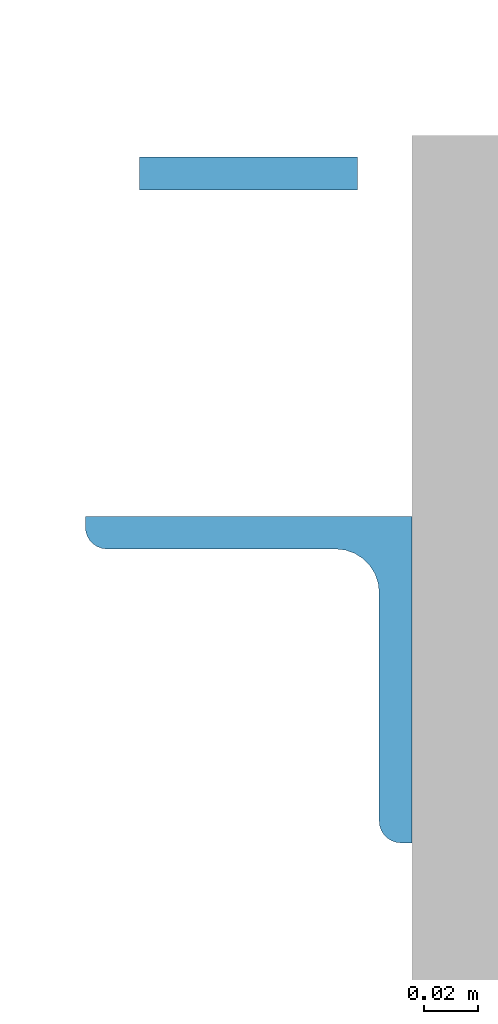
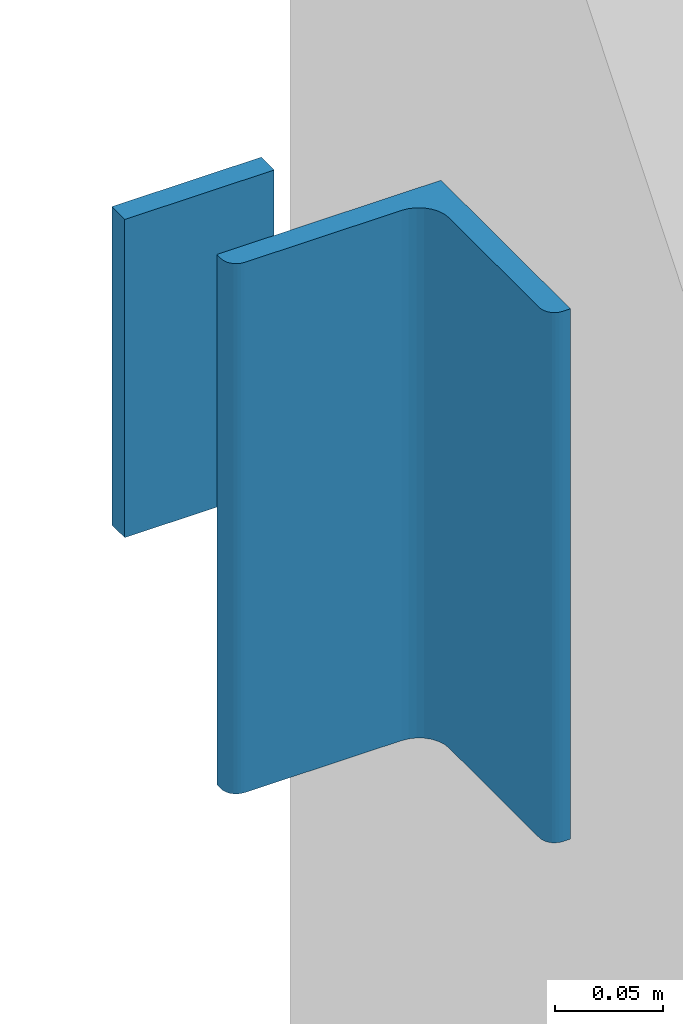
# One storey, part 12 of 22: 2 columns.
"""IFC2X3 building model written with IfcOpenShell, lengths in millimetres."""

from ifc_helpers import new_model, entity, si_unit, converted_unit, derived_unit, direction, frame, frame_2d, origin, place, context, subcontext, project, spatial, polyline, circle_curve, parameter, trimmed, segment, composite_curve, rectangle, outline, extrude, source, transform, mapped, material, type_object, type_shapes, element, save


model = new_model("IFC2X3")

# Units and contexts
model_context = context("Model", 3, precision=0.01, world=origin(), true_north=direction((6.12303176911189e-17, 1.0)))
body_context = subcontext(model_context, "Body", "Model", "MODEL_VIEW")
ifc_project = project(units=[si_unit("LENGTHUNIT", "METRE", prefix="MILLI"), si_unit("AREAUNIT", "SQUARE_METRE"), si_unit("VOLUMEUNIT", "CUBIC_METRE"), converted_unit("PLANEANGLEUNIT", "DEGREE", entity("IfcRatioMeasure", 0.0174532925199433), si_unit("PLANEANGLEUNIT", "RADIAN"), dimensions=[0, 0, 0, 0, 0, 0, 0]), si_unit("MASSUNIT", "GRAM", prefix="KILO"), derived_unit("MASSDENSITYUNIT", [(si_unit("MASSUNIT", "GRAM", prefix="KILO"), 1), (si_unit("LENGTHUNIT", "METRE"), -3)]), si_unit("TIMEUNIT", "SECOND"), si_unit("FREQUENCYUNIT", "HERTZ"), si_unit("THERMODYNAMICTEMPERATUREUNIT", "DEGREE_CELSIUS"), derived_unit("THERMALTRANSMITTANCEUNIT", [(si_unit("MASSUNIT", "GRAM", prefix="KILO"), 1), (si_unit("THERMODYNAMICTEMPERATUREUNIT", "KELVIN"), -1), (si_unit("TIMEUNIT", "SECOND"), -3)]), derived_unit("VOLUMETRICFLOWRATEUNIT", [(si_unit("LENGTHUNIT", "METRE"), 3), (si_unit("TIMEUNIT", "SECOND"), -1)]), si_unit("ELECTRICCURRENTUNIT", "AMPERE"), si_unit("ELECTRICVOLTAGEUNIT", "VOLT"), si_unit("POWERUNIT", "WATT"), si_unit("FORCEUNIT", "NEWTON", prefix="KILO"), si_unit("ILLUMINANCEUNIT", "LUX"), si_unit("LUMINOUSFLUXUNIT", "LUMEN"), si_unit("LUMINOUSINTENSITYUNIT", "CANDELA"), derived_unit("USERDEFINED", [(si_unit("MASSUNIT", "GRAM", prefix="KILO"), -1), (si_unit("LENGTHUNIT", "METRE"), -2), (si_unit("TIMEUNIT", "SECOND"), 3), (si_unit("LUMINOUSFLUXUNIT", "LUMEN"), 1)]), derived_unit("LINEARVELOCITYUNIT", [(si_unit("LENGTHUNIT", "METRE"), 1), (si_unit("TIMEUNIT", "SECOND"), -1)]), si_unit("PRESSUREUNIT", "PASCAL"), derived_unit("USERDEFINED", [(si_unit("LENGTHUNIT", "METRE"), -2), (si_unit("MASSUNIT", "GRAM", prefix="KILO"), 1), (si_unit("TIMEUNIT", "SECOND"), -2)])], contexts=[model_context])

# Site, building, storey
site_placement = place(None, origin())
site = spatial("IfcSite", under=ifc_project, at=site_placement, Name="Default", CompositionType="ELEMENT")
building_placement = place(site_placement, origin())
building = spatial("IfcBuilding", under=site, at=building_placement, Name="niet gebruiken", CompositionType="ELEMENT")
storey_placement = place(building_placement, frame((0.0, 0.0, 15000.0)))
storey = spatial("IfcBuildingStorey", under=building, at=storey_placement, Name="04 vierde verdieping", CompositionType="ELEMENT", Elevation=15000.0)

# Columns
ifc_material = material(Name="NLRS_h2_staal")
column_type_1 = type_object("IfcColumnType", Name="kolomgelijzijdig hoekprofiel LEQU_120x120x12_!", PredefinedType="COLUMN", material=ifc_material)
shared_shape_1 = source(origin(), body_context, "Body", "SweptSolid", [
    extrude(outline(composite_curve([segment(polyline([(-45.3333333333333, -45.3333333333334), (74.6666666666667, -45.3333333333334)]), True, "CONTINUOUS"), segment(polyline([(74.6666666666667, -45.3333333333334), (74.6666666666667, -41.3333333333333)]), True, "CONTINUOUS"), segment(trimmed(circle_curve(frame_2d((66.6666666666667, -41.3333333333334), x_axis=(1.0, 0.0)), 7.99999999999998), [parameter(0.0)], [parameter(90.0000000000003)], True, "PARAMETER"), True, "CONTINUOUS"), segment(polyline([(66.6666666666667, -33.3333333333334), (-17.3333333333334, -33.3333333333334)]), True, "CONTINUOUS"), segment(trimmed(circle_curve(frame_2d((-17.3333333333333, -17.3333333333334), x_axis=(0.0, -1.0)), 16.0), [parameter(270.0)], [parameter(0.0)], True, "PARAMETER"), False, "CONTINUOUS"), segment(polyline([(-33.3333333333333, -17.3333333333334), (-33.3333333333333, 66.6666666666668)]), True, "CONTINUOUS"), segment(trimmed(circle_curve(frame_2d((-41.3333333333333, 66.6666666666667), x_axis=(1.0, 0.0)), 8.0), [parameter(0.0)], [parameter(90.0)], True, "PARAMETER"), True, "CONTINUOUS"), segment(polyline([(-41.3333333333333, 74.6666666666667), (-45.3333333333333, 74.6666666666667)]), True, "CONTINUOUS"), segment(polyline([(-45.3333333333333, 74.6666666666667), (-45.3333333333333, -45.3333333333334)]), True, "CONTINUOUS")], self_intersect=False)), frame((32.8333333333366, -32.8333333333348, 16235.0), z_axis=(0.0, 0.0, 1.0), x_axis=(0.0, -1.0, 0.0)), (0.0, 0.0, 1.0), 300.00000000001),
])
type_shapes(column_type_1, [shared_shape_1])
column_1_placement = place(storey_placement, frame((126007.499999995, 33077.4999999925, -15000.0), z_axis=(0.0, 0.0, 1.0), x_axis=(0.0, -1.0, 0.0)))
element("IfcColumn", 1, at=column_1_placement, inside=storey, type_object=column_type_1, material=ifc_material, Name="NLRS_28.11_SCO_TLB_stalen kolom hoekprofiel gelijkzijdig_gen:kolomgelijzijdig hoekprofiel LEQU_120x120x12_!", ObjectType="kolomgelijzijdig hoekprofiel LEQU_120x120x12_!", context=body_context, shape_type="MappedRepresentation", body=[
    mapped(shared_shape_1, transform((0.0, 0.0, 0.0), scale=1.0)),
])
column_type_2 = type_object("IfcColumnType", Name="kolom stripstaal RECT_80x12", PredefinedType="COLUMN", material=ifc_material)
shared_shape_2 = source(origin(), body_context, "Body", "SweptSolid", [
    extrude(rectangle(XDim=12.0000000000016, YDim=79.9999999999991, at=frame_2d((0.0, -8.66506866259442e-12), x_axis=(1.0, 0.0))), frame((125960.0, 33216.0, 16295.0), z_axis=(0.0, 0.0, 1.0), x_axis=(0.0, -1.0, 0.0)), (0.0, 0.0, 1.0), 180.000000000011),
])
type_shapes(column_type_2, [shared_shape_2])
column_2_placement = place(storey_placement, frame((0.0, 0.0, -15000.0)))
element("IfcColumn", 2, at=column_2_placement, inside=storey, type_object=column_type_2, material=ifc_material, Name="NLRS_28.11_SCO_TLB_stalen kolom stripstaal_gen:kolom stripstaal RECT_80x12", ObjectType="kolom stripstaal RECT_80x12", context=body_context, shape_type="MappedRepresentation", body=[
    mapped(shared_shape_2, transform((0.0, 0.0, 0.0), scale=1.0)),
])

save(model, "model.ifc")
